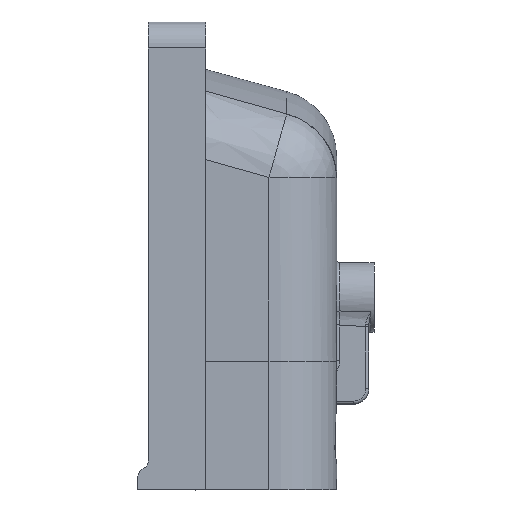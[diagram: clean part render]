
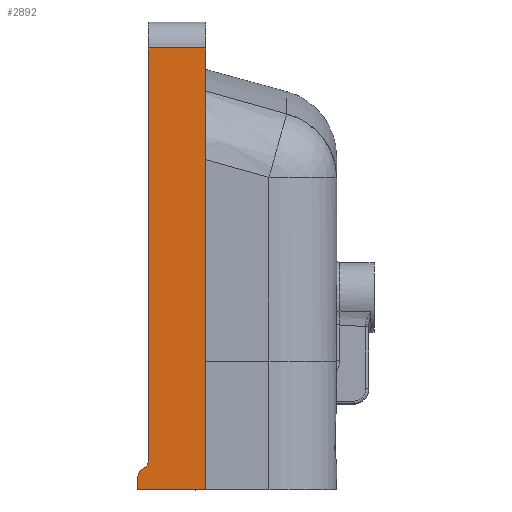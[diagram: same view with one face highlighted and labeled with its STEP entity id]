
A CAD part, left-side view. The second image highlights one B-rep face of the part: STEP entity #2892.
In plain terms, the highlighted planar face has unit normal (-1, 0, 0).
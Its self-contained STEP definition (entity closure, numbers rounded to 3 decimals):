
#57 = CARTESIAN_POINT ( 'NONE',  ( 202.5, 20., 0.668 ) ) ;
#142 = EDGE_CURVE ( 'NONE', #4920, #8077, #5626, .T. ) ;
#342 = CIRCLE ( 'NONE', #7698, 8. ) ;
#491 = ORIENTED_EDGE ( 'NONE', *, *, #2284, .T. ) ;
#496 = DIRECTION ( 'NONE',  ( 0., 1., 0. ) ) ;
#511 = ORIENTED_EDGE ( 'NONE', *, *, #9165, .T. ) ;
#656 = VERTEX_POINT ( 'NONE', #6312 ) ;
#661 = CARTESIAN_POINT ( 'NONE',  ( 202.5, 15., 8.084 ) ) ;
#677 = VECTOR ( 'NONE', #9830, 1000. ) ;
#881 = CARTESIAN_POINT ( 'NONE',  ( 202.5, -45., 0. ) ) ;
#1207 = CARTESIAN_POINT ( 'NONE',  ( 202.5, 10., 412.5 ) ) ;
#1273 = CARTESIAN_POINT ( 'NONE',  ( 202.5, -45., 0. ) ) ;
#1304 = ORIENTED_EDGE ( 'NONE', *, *, #7486, .F. ) ;
#1523 = CARTESIAN_POINT ( 'NONE',  ( 202.5, -45., 412.5 ) ) ;
#1683 = CARTESIAN_POINT ( 'NONE',  ( 202.5, 18., 15.5 ) ) ;
#2284 = EDGE_CURVE ( 'NONE', #4920, #656, #10234, .T. ) ;
#2424 = DIRECTION ( 'NONE',  ( 0., 0., 1. ) ) ;
#2448 = AXIS2_PLACEMENT_3D ( 'NONE', #4759, #4921, #8351 ) ;
#2516 = DIRECTION ( 'NONE',  ( 0., 0., 1. ) ) ;
#2743 = CARTESIAN_POINT ( 'NONE',  ( 202.5, 10., 15.5 ) ) ;
#2892 = ADVANCED_FACE ( 'NONE', ( #6328 ), #3802, .T. ) ;
#3344 = CIRCLE ( 'NONE', #2448, 8. ) ;
#3802 = PLANE ( 'NONE',  #7261 ) ;
#4095 = CARTESIAN_POINT ( 'NONE',  ( 202.5, -45., -12.5 ) ) ;
#4218 = ORIENTED_EDGE ( 'NONE', *, *, #7442, .T. ) ;
#4759 = CARTESIAN_POINT ( 'NONE',  ( 202.5, 12., 0.668 ) ) ;
#4815 = VECTOR ( 'NONE', #8469, 1000. ) ;
#4867 = CARTESIAN_POINT ( 'NONE',  ( 202.5, -45., -12.5 ) ) ;
#4920 = VERTEX_POINT ( 'NONE', #4867 ) ;
#4921 = DIRECTION ( 'NONE',  ( -1., 0., 0. ) ) ;
#5012 = EDGE_CURVE ( 'NONE', #11110, #9980, #3344, .T. ) ;
#5543 = VECTOR ( 'NONE', #8131, 1000. ) ;
#5626 = LINE ( 'NONE', #4095, #5987 ) ;
#5987 = VECTOR ( 'NONE', #496, 1000. ) ;
#6307 = ORIENTED_EDGE ( 'NONE', *, *, #5012, .T. ) ;
#6312 = CARTESIAN_POINT ( 'NONE',  ( 202.5, -45., 412.5 ) ) ;
#6328 = FACE_OUTER_BOUND ( 'NONE', #8204, .T. ) ;
#6340 = VECTOR ( 'NONE', #2516, 1000. ) ;
#7123 = CARTESIAN_POINT ( 'NONE',  ( 202.5, 20., -12.5 ) ) ;
#7206 = ORIENTED_EDGE ( 'NONE', *, *, #142, .F. ) ;
#7261 = AXIS2_PLACEMENT_3D ( 'NONE', #1273, #8078, #8936 ) ;
#7286 = LINE ( 'NONE', #7123, #677 ) ;
#7320 = ORIENTED_EDGE ( 'NONE', *, *, #7344, .F. ) ;
#7344 = EDGE_CURVE ( 'NONE', #9564, #9852, #9169, .T. ) ;
#7442 = EDGE_CURVE ( 'NONE', #656, #9852, #10725, .T. ) ;
#7486 = EDGE_CURVE ( 'NONE', #8077, #9980, #7286, .T. ) ;
#7698 = AXIS2_PLACEMENT_3D ( 'NONE', #1683, #10140, #2424 ) ;
#8077 = VERTEX_POINT ( 'NONE', #8359 ) ;
#8078 = DIRECTION ( 'NONE',  ( -1., 0., 0. ) ) ;
#8131 = DIRECTION ( 'NONE',  ( 0., 1., 0. ) ) ;
#8204 = EDGE_LOOP ( 'NONE', ( #511, #6307, #1304, #7206, #491, #4218, #7320 ) ) ;
#8351 = DIRECTION ( 'NONE',  ( 0., 0., 1. ) ) ;
#8359 = CARTESIAN_POINT ( 'NONE',  ( 202.5, 20., -12.5 ) ) ;
#8469 = DIRECTION ( 'NONE',  ( 0., 0., 1. ) ) ;
#8936 = DIRECTION ( 'NONE',  ( 0., 0., 1. ) ) ;
#9165 = EDGE_CURVE ( 'NONE', #9564, #11110, #342, .T. ) ;
#9169 = LINE ( 'NONE', #10217, #4815 ) ;
#9564 = VERTEX_POINT ( 'NONE', #2743 ) ;
#9830 = DIRECTION ( 'NONE',  ( 0., 0., 1. ) ) ;
#9852 = VERTEX_POINT ( 'NONE', #1207 ) ;
#9980 = VERTEX_POINT ( 'NONE', #57 ) ;
#10140 = DIRECTION ( 'NONE',  ( 1., 0., 0. ) ) ;
#10217 = CARTESIAN_POINT ( 'NONE',  ( 202.5, 10., 7.5 ) ) ;
#10234 = LINE ( 'NONE', #881, #6340 ) ;
#10725 = LINE ( 'NONE', #1523, #5543 ) ;
#11110 = VERTEX_POINT ( 'NONE', #661 ) ;
